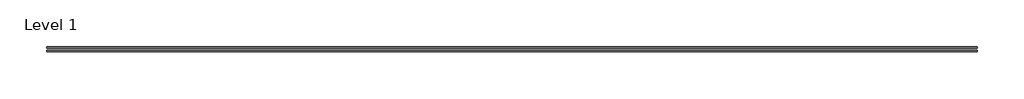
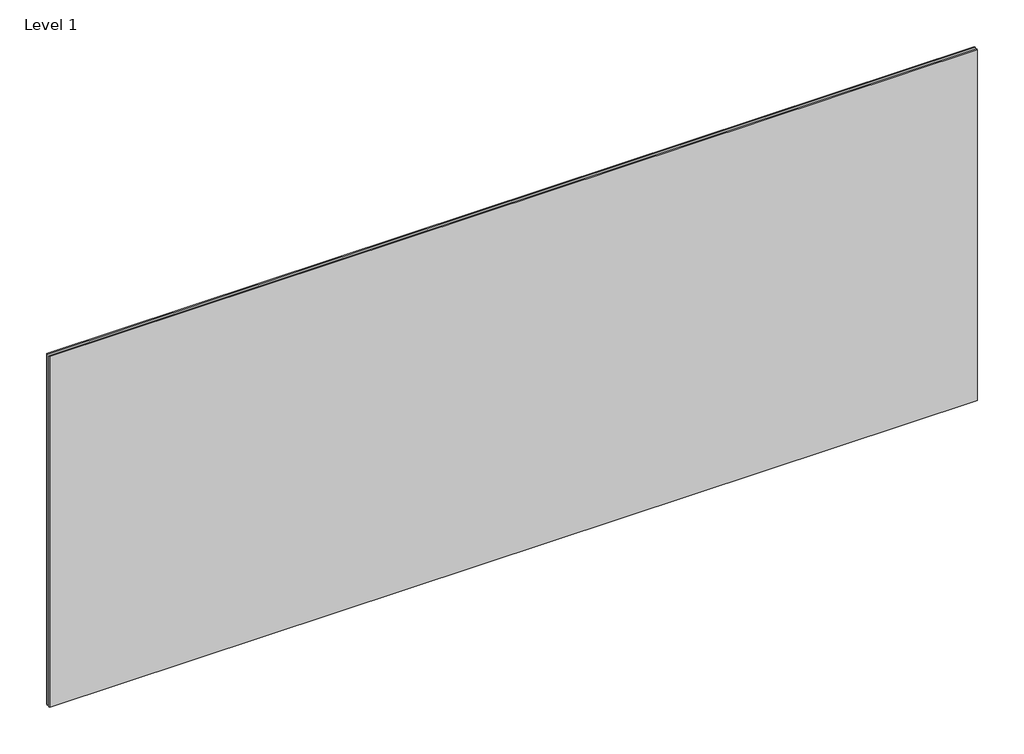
# One storey: 2 plates.
"""IFC4 building model written with IfcOpenShell, lengths in millimetres."""

from ifc_helpers import new_model, si_unit, origin, place, context, project, spatial, transform, mapped, element, save
from components import system_panel_glazed_1f499c63, system_panel_glazed_f35a9ebe

model = new_model("IFC4")

# Units and contexts
model_context = context("Model", 3, world=origin())
ifc_project = project(units=[si_unit("LENGTHUNIT", "METRE", prefix="MILLI")], contexts=[model_context])

# Site, building, storey
site = spatial("IfcSite", under=ifc_project)
building = spatial("IfcBuilding", under=site)
storey = spatial("IfcBuildingStorey", under=building, Name="Level 1", Elevation=0.0)

# Plates
placement = place(None, origin())
system_panel_glazed_shape = system_panel_glazed_1f499c63(model_context)
element("IfcPlate", 1, ObjectType="System Panel : Glazed", at=placement, inside=storey, context=model_context, shape_type="MappedRepresentation", body=[
    mapped(system_panel_glazed_shape, transform((-231.8516436, 2931.2922777, 0.0), x_axis=(-1.0, 0.0, 0.0), y_axis=(0.0, -1.0, 0.0), z_axis=(0.0, 0.0, 1.0))),
])
system_panel_glazed_2_shape = system_panel_glazed_f35a9ebe(model_context)
element("IfcPlate", 2, ObjectType="System Panel : Glazed", at=placement, inside=storey, context=model_context, shape_type="MappedRepresentation", body=[
    mapped(system_panel_glazed_2_shape, transform((-231.8516436, 2931.2922777, 0.0), x_axis=(-1.0, 0.0, 0.0), y_axis=(0.0, -1.0, 0.0), z_axis=(0.0, 0.0, 1.0))),
])

save(model, "model.ifc")
